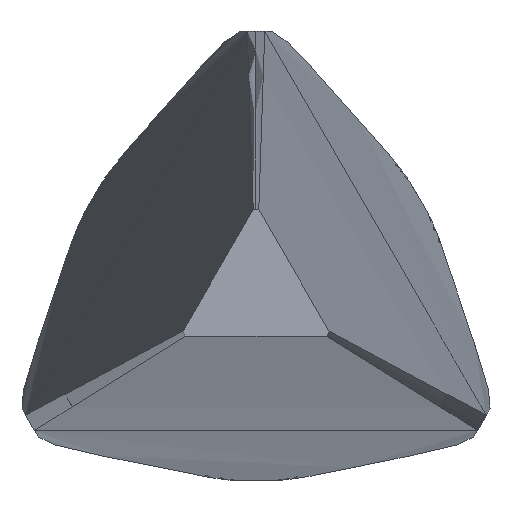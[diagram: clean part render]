
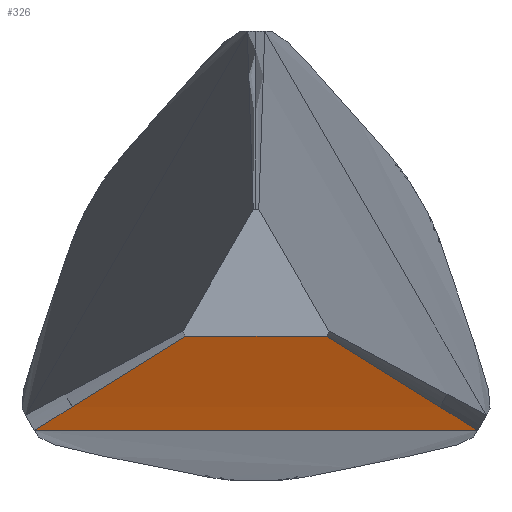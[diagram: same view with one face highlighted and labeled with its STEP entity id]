
A CAD part, left-side view. The second image highlights one B-rep face of the part: STEP entity #326.
In plain terms, the highlighted cylindrical face has radius 1000 mm (diameter 2000 mm), a partial arc.
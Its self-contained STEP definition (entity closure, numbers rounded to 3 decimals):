
#55 = EDGE_CURVE ( 'NONE', #1349, #81, #303, .T. ) ;
#81 = VERTEX_POINT ( 'NONE', #1052 ) ;
#118 = CARTESIAN_POINT ( 'NONE',  ( 33.306, -62.94, -1.832 ) ) ;
#122 = VECTOR ( 'NONE', #883, 1000. ) ;
#205 = VECTOR ( 'NONE', #837, 1000. ) ;
#254 = VERTEX_POINT ( 'NONE', #1294 ) ;
#303 = B_SPLINE_CURVE_WITH_KNOTS ( 'NONE', 3,
 ( #1156, #118, #840, #1269 ),
 .UNSPECIFIED., .F., .F.,
 ( 4, 4 ),
 ( 0., 0.05 ),
 .UNSPECIFIED. ) ;
#326 = ADVANCED_FACE ( 'NONE', ( #370 ), #331, .T. ) ;
#331 = CYLINDRICAL_SURFACE ( 'NONE', #1306, 1000. ) ;
#370 = FACE_OUTER_BOUND ( 'NONE', #835, .T. ) ;
#379 = DIRECTION ( 'NONE',  ( 0., 0., 1. ) ) ;
#387 = ORIENTED_EDGE ( 'NONE', *, *, #963, .T. ) ;
#470 = CARTESIAN_POINT ( 'NONE',  ( 0., -59.067, -0.581 ) ) ;
#509 = LINE ( 'NONE', #1061, #122 ) ;
#611 = CARTESIAN_POINT ( 'NONE',  ( 33.307, -57.227, -1.727 ) ) ;
#664 = ORIENTED_EDGE ( 'NONE', *, *, #731, .T. ) ;
#679 = ORIENTED_EDGE ( 'NONE', *, *, #779, .T. ) ;
#709 = CARTESIAN_POINT ( 'NONE',  ( 0., -59.067, -0.581 ) ) ;
#711 = ORIENTED_EDGE ( 'NONE', *, *, #55, .T. ) ;
#716 = CARTESIAN_POINT ( 'NONE',  ( 41.653, -57.06, -1.832 ) ) ;
#731 = EDGE_CURVE ( 'NONE', #1013, #254, #1035, .T. ) ;
#779 = EDGE_CURVE ( 'NONE', #81, #1013, #897, .T. ) ;
#835 = EDGE_LOOP ( 'NONE', ( #711, #679, #664, #387 ) ) ;
#837 = DIRECTION ( 'NONE',  ( 0., 1., 0. ) ) ;
#840 = CARTESIAN_POINT ( 'NONE',  ( 16.619, -62.271, -1.413 ) ) ;
#858 = CARTESIAN_POINT ( 'NONE',  ( 50., -62.94, -1.832 ) ) ;
#883 = DIRECTION ( 'NONE',  ( 0., -1., 0. ) ) ;
#897 = LINE ( 'NONE', #1042, #205 ) ;
#963 = EDGE_CURVE ( 'NONE', #254, #1349, #509, .T. ) ;
#1013 = VERTEX_POINT ( 'NONE', #470 ) ;
#1035 = B_SPLINE_CURVE_WITH_KNOTS ( 'NONE', 3,
 ( #709, #1129, #1335, #611, #716, #1332 ),
 .UNSPECIFIED., .F., .F.,
 ( 4, 2, 4 ),
 ( 0., 0.025, 0.05 ),
 .UNSPECIFIED. ) ;
#1042 = CARTESIAN_POINT ( 'NONE',  ( 0., -60., -0.581 ) ) ;
#1052 = CARTESIAN_POINT ( 'NONE',  ( 0., -60.933, -0.581 ) ) ;
#1061 = CARTESIAN_POINT ( 'NONE',  ( 50., -60., -1.832 ) ) ;
#1092 = CARTESIAN_POINT ( 'NONE',  ( 50., -60., 998.168 ) ) ;
#1129 = CARTESIAN_POINT ( 'NONE',  ( 8.31, -58.398, -0.997 ) ) ;
#1156 = CARTESIAN_POINT ( 'NONE',  ( 50., -62.94, -1.832 ) ) ;
#1269 = CARTESIAN_POINT ( 'NONE',  ( 0., -60.933, -0.581 ) ) ;
#1294 = CARTESIAN_POINT ( 'NONE',  ( 50., -57.06, -1.832 ) ) ;
#1306 = AXIS2_PLACEMENT_3D ( 'NONE', #1092, #1309, #379 ) ;
#1309 = DIRECTION ( 'NONE',  ( 0., 1., 0. ) ) ;
#1332 = CARTESIAN_POINT ( 'NONE',  ( 50., -57.06, -1.832 ) ) ;
#1335 = CARTESIAN_POINT ( 'NONE',  ( 16.638, -57.896, -1.31 ) ) ;
#1349 = VERTEX_POINT ( 'NONE', #858 ) ;
